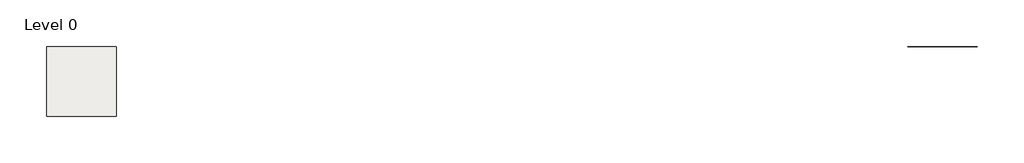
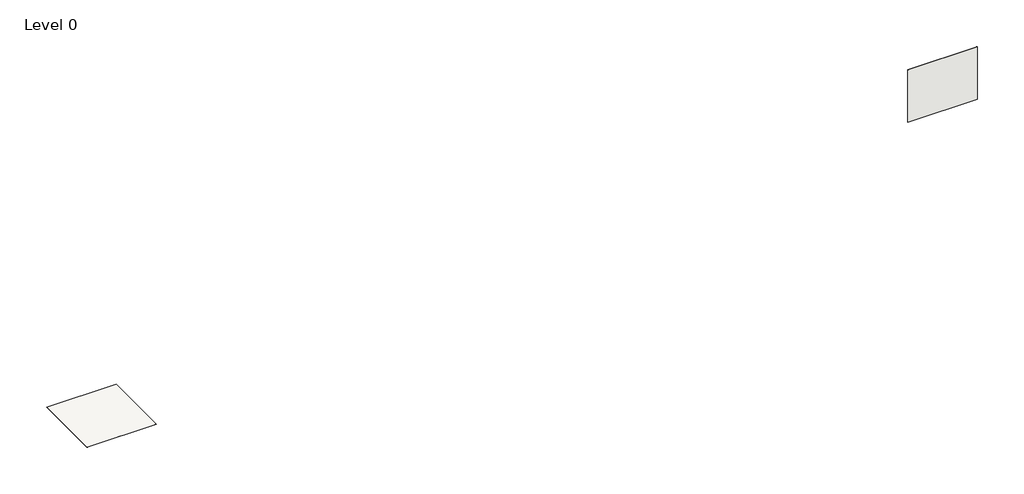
# One storey: 2 coverings.
"""IFC4 building model written with IfcOpenShell, lengths in millimetres."""

from ifc_helpers import new_model, si_unit, frame, origin, origin_with_axes, place, context, project, spatial, polyline, outline, extrude, element, save

model = new_model("IFC4")

# Units and contexts
model_context = context("Model", 3, world=origin())
ifc_project = project(units=[si_unit("LENGTHUNIT", "METRE", prefix="MILLI")], contexts=[model_context])

# Site, building, storey
site = spatial("IfcSite", under=ifc_project)
building = spatial("IfcBuilding", under=site)
storey = spatial("IfcBuildingStorey", under=building, Name="Level 0", Elevation=0.0)

# Coverings
placement = place(None, origin())
element("IfcCovering", 1, ObjectType="NBS_DeltaMembranes_ColdAppliedPolymerModifiedBitumenWaterproofCoatings_KosterDeuxan2C", at=placement, inside=storey, context=model_context, shape_type="SweptSolid", body=[
    extrude(outline(polyline([(0.0, -7600.0), (0.0, -5100.0), (2500.0, -5100.0), (2500.0, -7600.0), (0.0, -7600.0)])), frame((0.0, 0.0, -2.0), z_axis=(0.0, 0.0, 1.0), x_axis=(1.0, 0.0, 0.0)), (0.0, 0.0, 1.0), 2.0),
])
element("IfcCovering", 2, ObjectType="NBS_DeltaMembranes_ColdAppliedPolymerModifiedBitumenWaterproofCoatings_KosterDeuxan2C", at=placement, inside=storey, context=model_context, shape_type="SweptSolid", body=[
    extrude(outline(polyline([(31000.0, -5100.0), (33500.0, -5100.0), (33500.0, -5102.0), (31000.0, -5102.0), (31000.0, -5100.0)])), origin_with_axes(), (0.0, 0.0, 1.0), 2000.0),
])

save(model, "model.ifc")
